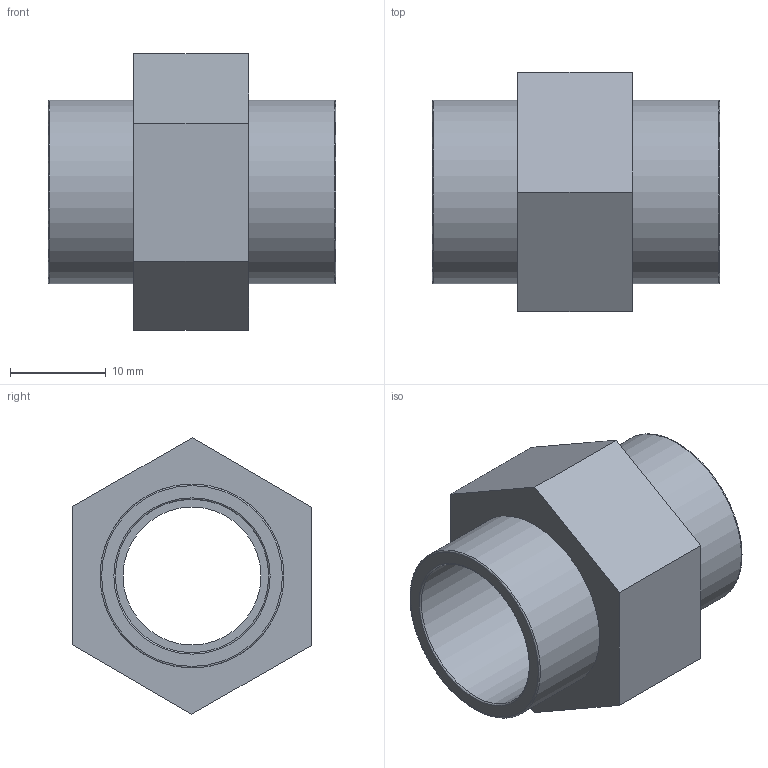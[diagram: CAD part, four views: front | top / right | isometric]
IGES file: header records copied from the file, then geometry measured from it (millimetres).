
Global section: file name: 050102016003.ipt; native system: Autodesk Inventor 2015; preprocessor: unknown; author: KIM; date: 20171207.164052; units: millimetre
Bounding box: 30 x 25.04 x 28.87 mm (x, y, z)
Volume: 6120.1 mm3; surface area: 4316.8 mm2
Topology: 1 solids, 1 shells, 21 faces, 55 edges, 40 vertices
Faces by surface type: plane 12, revolution 7, cylinder 2
Full cylindrical faces by diameter (mm): 19.2 x2
